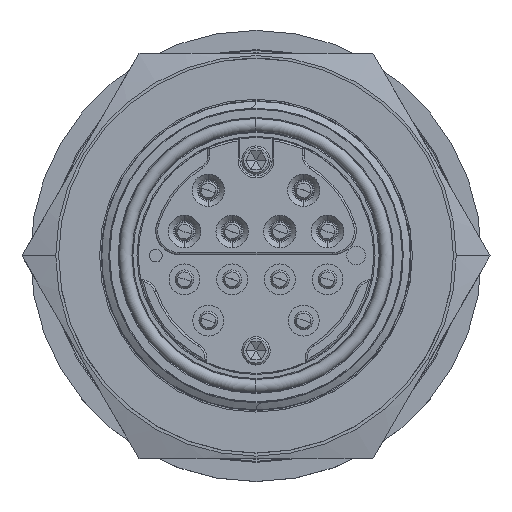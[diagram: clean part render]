
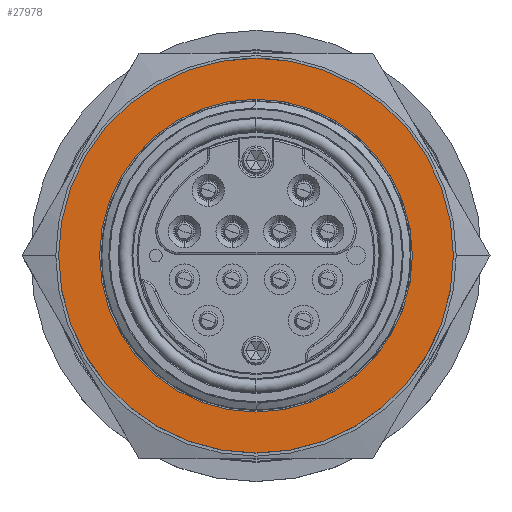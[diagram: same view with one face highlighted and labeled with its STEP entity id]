
A CAD part, top view. The second image highlights one B-rep face of the part: STEP entity #27978.
In plain terms, the highlighted planar face has unit normal (0, 0, 1).
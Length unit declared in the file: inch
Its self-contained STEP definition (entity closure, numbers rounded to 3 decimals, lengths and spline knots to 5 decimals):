
#1433 = CARTESIAN_POINT ( 'NONE',  ( 0., 0.82, -0.502 ) ) ;
#2056 = DIRECTION ( 'NONE',  ( 0., 1., 0. ) ) ;
#2344 = CIRCLE ( 'NONE', #6479, 1.035 ) ;
#5250 = EDGE_LOOP ( 'NONE', ( #5493, #27567 ) ) ;
#5493 = ORIENTED_EDGE ( 'NONE', *, *, #18112, .F. ) ;
#6448 = DIRECTION ( 'NONE',  ( 0., 0., 1. ) ) ;
#6479 = AXIS2_PLACEMENT_3D ( 'NONE', #8705, #11976, #18294 ) ;
#8083 = AXIS2_PLACEMENT_3D ( 'NONE', #25520, #18564, #12638 ) ;
#8155 = CARTESIAN_POINT ( 'NONE',  ( 0., 1.035, -0.502 ) ) ;
#8471 = CARTESIAN_POINT ( 'NONE',  ( 0., -0.82, -0.502 ) ) ;
#8705 = CARTESIAN_POINT ( 'NONE',  ( 0., 0., -0.502 ) ) ;
#8757 = ORIENTED_EDGE ( 'NONE', *, *, #37900, .T. ) ;
#10871 = EDGE_LOOP ( 'NONE', ( #14892, #8757 ) ) ;
#11976 = DIRECTION ( 'NONE',  ( 0., 0., 1. ) ) ;
#12638 = DIRECTION ( 'NONE',  ( 0., -1., 0. ) ) ;
#14892 = ORIENTED_EDGE ( 'NONE', *, *, #40118, .T. ) ;
#15282 = PLANE ( 'NONE',  #8083 ) ;
#15486 = FACE_OUTER_BOUND ( 'NONE', #10871, .T. ) ;
#15620 = CIRCLE ( 'NONE', #27460, 1.035 ) ;
#18112 = EDGE_CURVE ( 'NONE', #21448, #19866, #21454, .T. ) ;
#18294 = DIRECTION ( 'NONE',  ( 0., 1., 0. ) ) ;
#18564 = DIRECTION ( 'NONE',  ( 0., 0., -1. ) ) ;
#18792 = CARTESIAN_POINT ( 'NONE',  ( 0., 0., -0.502 ) ) ;
#19367 = EDGE_CURVE ( 'NONE', #19866, #21448, #39584, .T. ) ;
#19726 = CARTESIAN_POINT ( 'NONE',  ( 0., 0., -0.502 ) ) ;
#19866 = VERTEX_POINT ( 'NONE', #8471 ) ;
#21448 = VERTEX_POINT ( 'NONE', #1433 ) ;
#21454 = CIRCLE ( 'NONE', #40958, 0.82 ) ;
#25520 = CARTESIAN_POINT ( 'NONE',  ( -1.035, 0., -0.502 ) ) ;
#26351 = AXIS2_PLACEMENT_3D ( 'NONE', #33178, #43009, #26653 ) ;
#26653 = DIRECTION ( 'NONE',  ( 0., 1., 0. ) ) ;
#27460 = AXIS2_PLACEMENT_3D ( 'NONE', #18792, #29638, #2056 ) ;
#27567 = ORIENTED_EDGE ( 'NONE', *, *, #19367, .F. ) ;
#27978 = ADVANCED_FACE ( 'NONE', ( #41890, #15486 ), #15282, .F. ) ;
#29638 = DIRECTION ( 'NONE',  ( 0., 0., 1. ) ) ;
#29991 = DIRECTION ( 'NONE',  ( 0., 1., 0. ) ) ;
#30193 = CARTESIAN_POINT ( 'NONE',  ( 0., -1.035, -0.502 ) ) ;
#33178 = CARTESIAN_POINT ( 'NONE',  ( 0., 0., -0.502 ) ) ;
#36201 = VERTEX_POINT ( 'NONE', #30193 ) ;
#37900 = EDGE_CURVE ( 'NONE', #36201, #41697, #2344, .T. ) ;
#39584 = CIRCLE ( 'NONE', #26351, 0.82 ) ;
#40118 = EDGE_CURVE ( 'NONE', #41697, #36201, #15620, .T. ) ;
#40958 = AXIS2_PLACEMENT_3D ( 'NONE', #19726, #6448, #29991 ) ;
#41697 = VERTEX_POINT ( 'NONE', #8155 ) ;
#41890 = FACE_BOUND ( 'NONE', #5250, .T. ) ;
#43009 = DIRECTION ( 'NONE',  ( 0., 0., 1. ) ) ;
